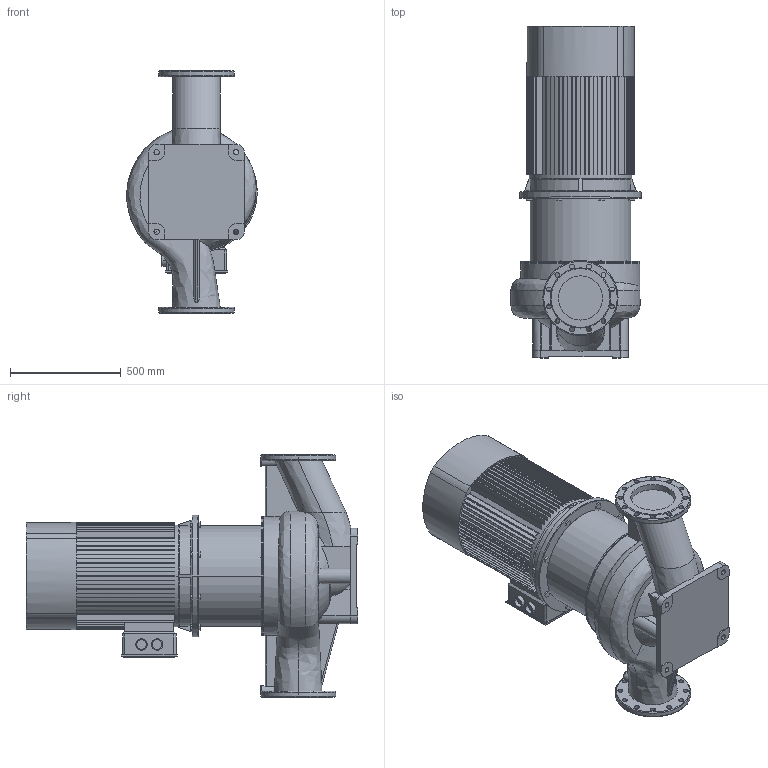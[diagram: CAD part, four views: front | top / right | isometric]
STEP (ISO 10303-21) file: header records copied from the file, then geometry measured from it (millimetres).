
FILE_DESCRIPTION (( 'STEP AP203' ), '1' );
FILE_NAME ('TD200-47_4.STEP', '2022-05-02T17:38:20', ( '' ), ( '' ), 'SwSTEP 2.0', 'SolidWorks 2019', '' );
FILE_SCHEMA (( 'CONFIG_CONTROL_DESIGN' ));
Length unit declared in the file: millimetre
Products named in the file (4): Pr_ch 200_TD200-47_4; TD200-47_4; ED_B5_YE2-250M-4 (55); Fon_200_TD200-47_4
Assembly tree (3 placements, depth 2):
  TD200-47_4
    Pr_ch 200_TD200-47_4
    Fon_200_TD200-47_4
    ED_B5_YE2-250M-4 (55)
Bounding box: 590.4 x 1500 x 1100 mm (x, y, z)
Volume: 254369034.4 mm3; surface area: 6172337.2 mm2
Topology: 5 solids, 7 shells, 816 faces, 2272 edges, 1508 vertices
Faces by surface type: plane 555, cylinder 189, torus 33, bspline 22, cone 17
Entity records: 35400 total; most frequent: CARTESIAN_POINT 13549, ORIENTED_EDGE 4544, DIRECTION 4451, EDGE_CURVE 2272, AXIS2_PLACEMENT_3D 1531, VERTEX_POINT 1508, LINE 1389, VECTOR 1389
